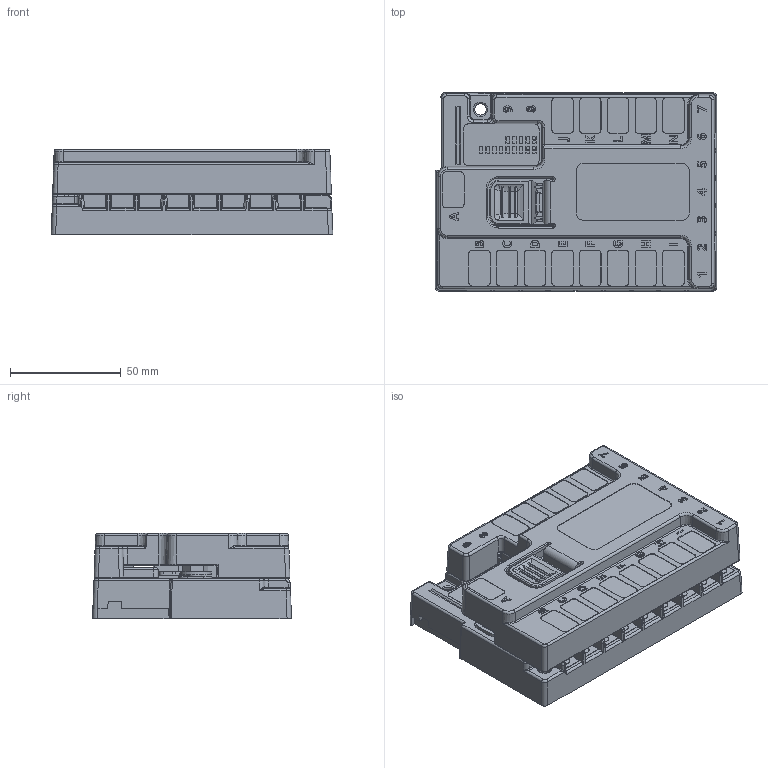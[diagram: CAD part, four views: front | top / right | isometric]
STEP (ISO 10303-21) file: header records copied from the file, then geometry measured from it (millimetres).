
FILE_DESCRIPTION(/* description */ ('STEP AP214'),/* implementation_level */ '2;1');
FILE_NAME(/* name */ '60f6f3f30929926c2b15cbbc',/* time_stamp */ '2021-07-20T16:04:10+00:00',/* author */ (''),/* organization */ (''),/* preprocessor_version */ 'ST-DEVELOPER v18.1',/* originating_system */ ' ',/* authorisation */ ' ');
FILE_SCHEMA (('AUTOMOTIVE_DESIGN {1 0 10303 214 3 1 1}'));
Products named in the file (2): Part 2; Part 1
Bounding box: 127.01 x 89.76 x 38.4 mm (x, y, z)
Volume: 215809.5 mm3; surface area: 95274.4 mm2
Topology: 2 solids, 89 shells, 4107 faces, 10608 edges, 6685 vertices
Faces by surface type: plane 2327, cylinder 777, bspline 472, cone 356, torus 160, sphere 15
Full cylindrical faces by diameter (mm): 0.4 x1, 0.5 x20, 2 x1, 4 x2, 4.5 x5, 4.8 x17, 5.116 x3, 6 x9, 6.25 x3, 8.95 x1, 14.2 x3
Entity records: 128026 total; most frequent: CARTESIAN_POINT 30468, ORIENTED_EDGE 20844, DIRECTION 19219, EDGE_CURVE 10422, LINE 6809, VECTOR 6809, VERTEX_POINT 6665, AXIS2_PLACEMENT_3D 6205
